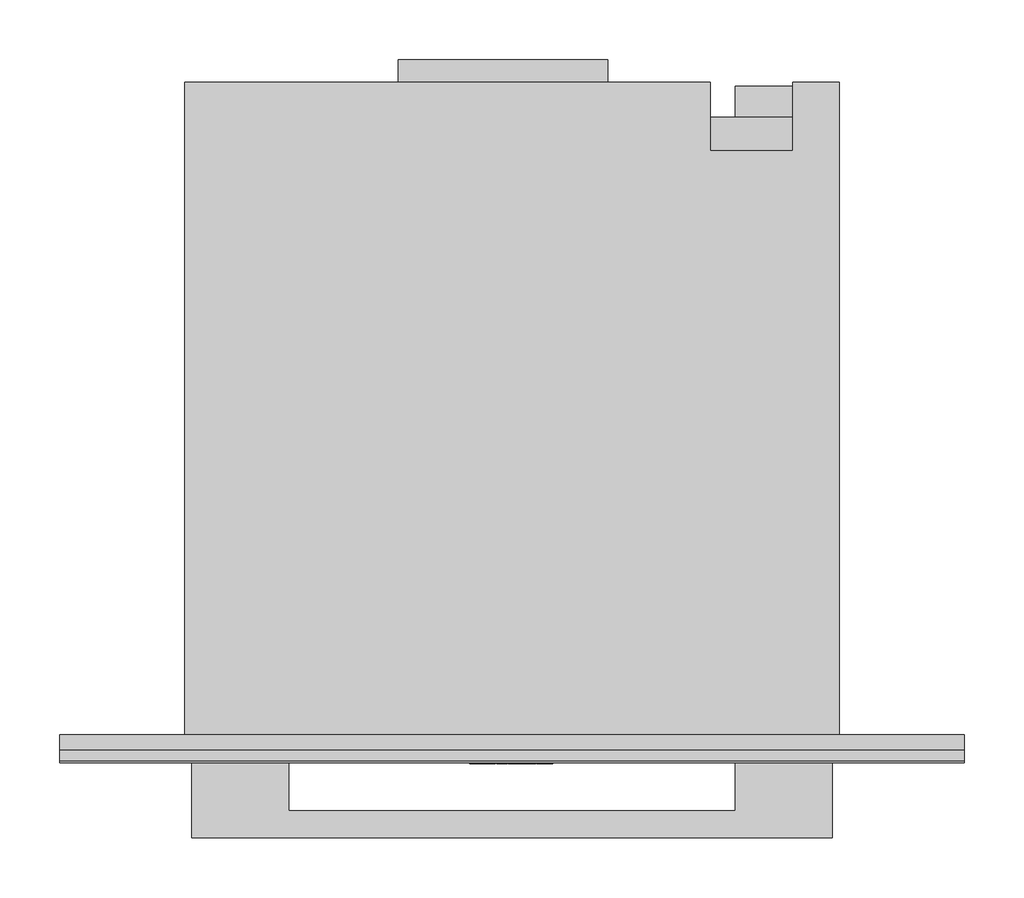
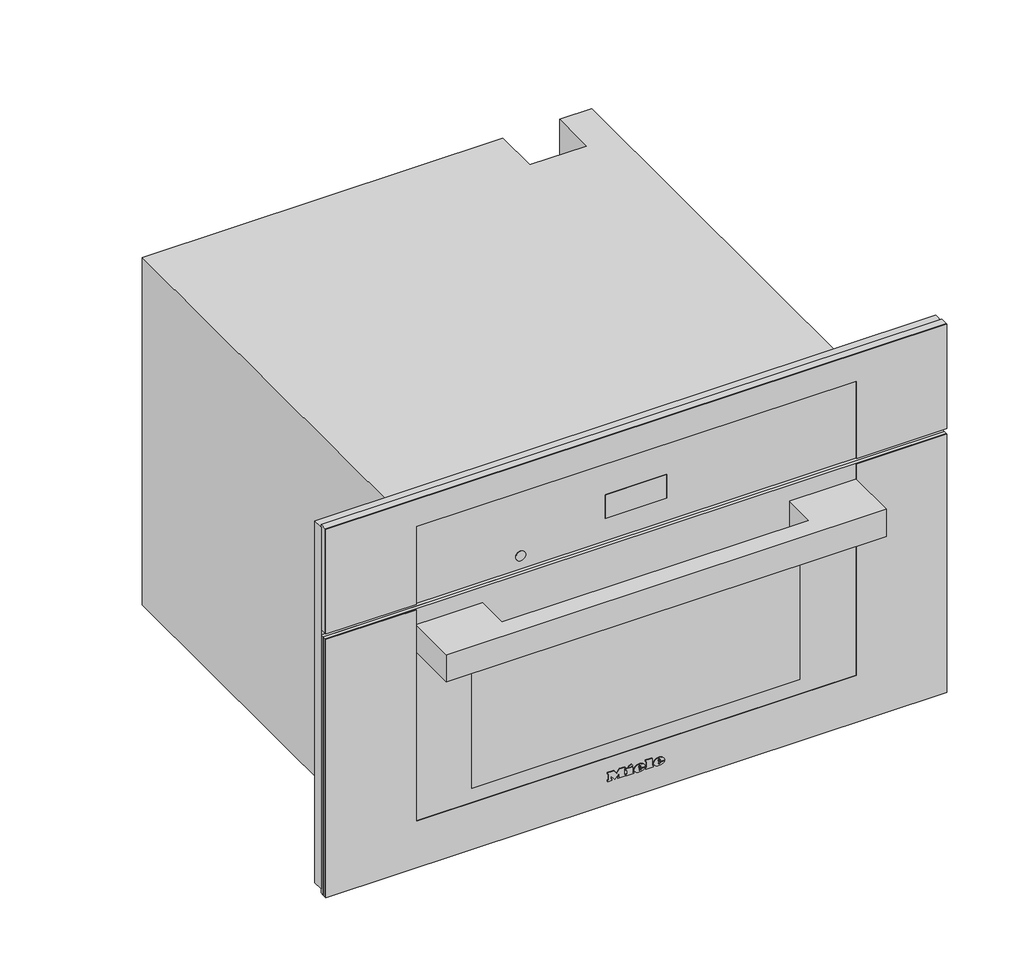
# Not in any storey: 1 proxy.
"""IFC4 building model written with IfcOpenShell, lengths in millimetres."""

from ifc_helpers import new_model, si_unit, origin, place, context, project, spatial, transform, mapped, element, save
from components import specialty_equipment_e0a83f77

model = new_model("IFC4")

# Units and contexts
model_context = context("Model", 3, world=origin())
ifc_project = project(units=[si_unit("LENGTHUNIT", "METRE", prefix="MILLI")], contexts=[model_context])

# Site, building
site = spatial("IfcSite", under=ifc_project)
building = spatial("IfcBuilding", under=site)

# Proxy
placement = place(None, origin())
specialty_equipment_shape = specialty_equipment_e0a83f77(model_context)
element("IfcBuildingElementProxy", 1, Name="11875800_USA_DGC7370_EDST-CLST : 23737042_USA_11875800_DGC7370_EDST-CLST", ObjectType="11875800_USA_DGC7370_EDST-CLST : 23737042_USA_11875800_DGC7370_EDST-CLST", at=placement, inside=building, context=model_context, shape_type="MappedRepresentation", body=[
    mapped(specialty_equipment_shape, transform((0.0, 0.0, 0.0), x_axis=(1.0, 0.0, 0.0), y_axis=(0.0, 1.0, 0.0), z_axis=(0.0, 0.0, 1.0))),
])

save(model, "model.ifc")
